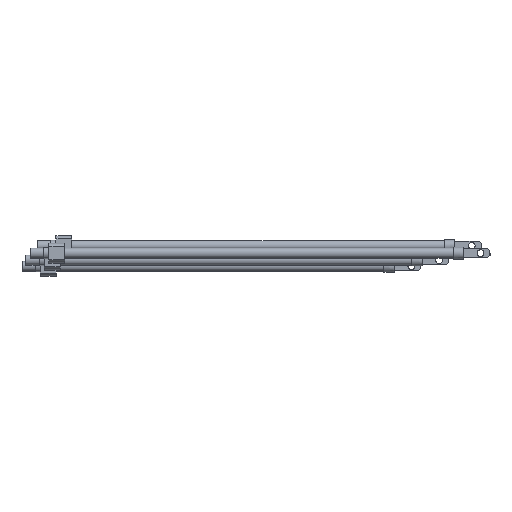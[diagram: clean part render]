
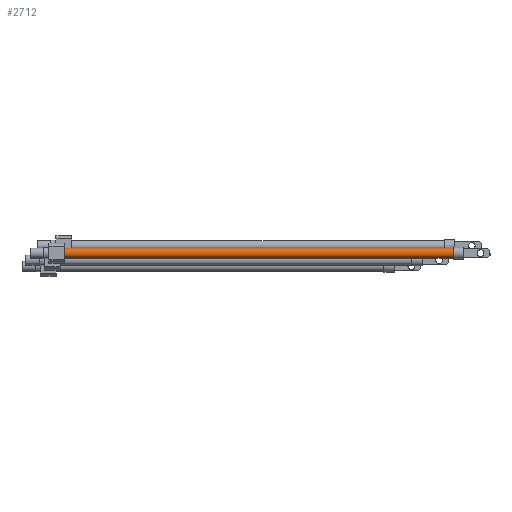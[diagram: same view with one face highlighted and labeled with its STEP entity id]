
A CAD part, front view. The second image highlights one B-rep face of the part: STEP entity #2712.
In plain terms, the highlighted cylindrical face has radius 4.75 mm (diameter 9.5 mm), a partial arc.
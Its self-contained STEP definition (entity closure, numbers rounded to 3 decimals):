
#79 = CYLINDRICAL_SURFACE ( 'NONE', #410, 4.75 ) ;
#205 = AXIS2_PLACEMENT_3D ( 'NONE', #600, #586, #308 ) ;
#291 = DIRECTION ( 'NONE',  ( -1., 0., 0. ) ) ;
#308 = DIRECTION ( 'NONE',  ( 0., 0., 1. ) ) ;
#357 = AXIS2_PLACEMENT_3D ( 'NONE', #2311, #403, #2629 ) ;
#363 = CARTESIAN_POINT ( 'NONE',  ( 32.5, 0., 4.75 ) ) ;
#389 = ORIENTED_EDGE ( 'NONE', *, *, #1422, .T. ) ;
#403 = DIRECTION ( 'NONE',  ( 1., 0., 0. ) ) ;
#410 = AXIS2_PLACEMENT_3D ( 'NONE', #3744, #291, #2217 ) ;
#427 = VECTOR ( 'NONE', #694, 1000. ) ;
#439 = VERTEX_POINT ( 'NONE', #363 ) ;
#586 = DIRECTION ( 'NONE',  ( -1., 0., 0. ) ) ;
#600 = CARTESIAN_POINT ( 'NONE',  ( 32.5, 0., 0. ) ) ;
#694 = DIRECTION ( 'NONE',  ( -1., 0., 0. ) ) ;
#726 = CIRCLE ( 'NONE', #357, 4.75 ) ;
#762 = ORIENTED_EDGE ( 'NONE', *, *, #2228, .F. ) ;
#996 = LINE ( 'NONE', #2698, #1196 ) ;
#1196 = VECTOR ( 'NONE', #2080, 1000. ) ;
#1368 = CARTESIAN_POINT ( 'NONE',  ( 32.5, 0., -4.75 ) ) ;
#1422 = EDGE_CURVE ( 'NONE', #2036, #439, #1481, .T. ) ;
#1481 = LINE ( 'NONE', #2892, #427 ) ;
#2035 = VERTEX_POINT ( 'NONE', #2098 ) ;
#2036 = VERTEX_POINT ( 'NONE', #2141 ) ;
#2080 = DIRECTION ( 'NONE',  ( -1., 0., 0. ) ) ;
#2098 = CARTESIAN_POINT ( 'NONE',  ( 400., 0., -4.75 ) ) ;
#2141 = CARTESIAN_POINT ( 'NONE',  ( 400., 0., 4.75 ) ) ;
#2217 = DIRECTION ( 'NONE',  ( 0., 0., 1. ) ) ;
#2228 = EDGE_CURVE ( 'NONE', #2036, #2035, #726, .T. ) ;
#2254 = VERTEX_POINT ( 'NONE', #1368 ) ;
#2311 = CARTESIAN_POINT ( 'NONE',  ( 400., 0., 0. ) ) ;
#2554 = CIRCLE ( 'NONE', #205, 4.75 ) ;
#2629 = DIRECTION ( 'NONE',  ( 0., 0., -1. ) ) ;
#2635 = ORIENTED_EDGE ( 'NONE', *, *, #3881, .F. ) ;
#2676 = EDGE_CURVE ( 'NONE', #2254, #439, #2554, .T. ) ;
#2698 = CARTESIAN_POINT ( 'NONE',  ( -12.357, 0., -4.75 ) ) ;
#2712 = ADVANCED_FACE ( 'NONE', ( #3906 ), #79, .T. ) ;
#2892 = CARTESIAN_POINT ( 'NONE',  ( -12.357, 0., 4.75 ) ) ;
#3342 = EDGE_LOOP ( 'NONE', ( #2635, #762, #389, #3493 ) ) ;
#3493 = ORIENTED_EDGE ( 'NONE', *, *, #2676, .F. ) ;
#3744 = CARTESIAN_POINT ( 'NONE',  ( -12.357, 0., 0. ) ) ;
#3881 = EDGE_CURVE ( 'NONE', #2035, #2254, #996, .T. ) ;
#3906 = FACE_OUTER_BOUND ( 'NONE', #3342, .T. ) ;
